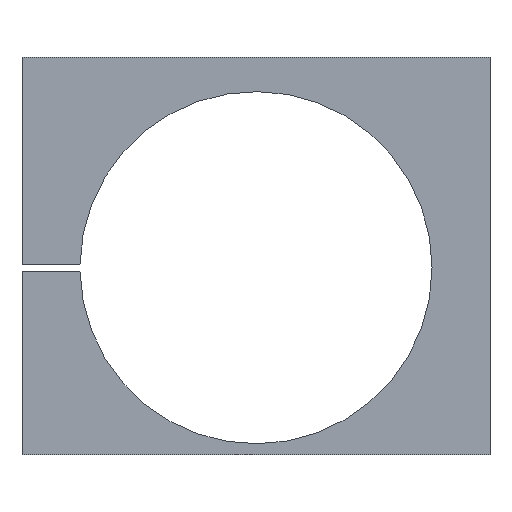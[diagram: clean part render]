
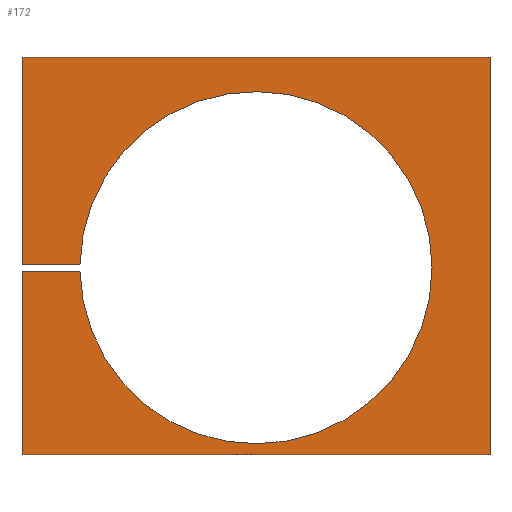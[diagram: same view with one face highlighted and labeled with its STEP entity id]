
A CAD part, front view. The second image highlights one B-rep face of the part: STEP entity #172.
In plain terms, the highlighted planar face has unit normal (0, -1, 0).
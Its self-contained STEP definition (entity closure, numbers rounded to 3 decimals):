
#61=CARTESIAN_POINT('Vertex',(-75.235,0.,81.5)) ;
#66=CARTESIAN_POINT('Line Origine',(-87.618,0.,81.5)) ;
#70=CARTESIAN_POINT('Vertex',(-100.,0.,81.5)) ;
#110=CARTESIAN_POINT('Axis2P3D Location',(0.,0.,0.)) ;
#115=CARTESIAN_POINT('Line Origine',(100.,0.,85.)) ;
#119=CARTESIAN_POINT('Vertex',(100.,0.,170.)) ;
#121=CARTESIAN_POINT('Vertex',(100.,0.,0.)) ;
#124=CARTESIAN_POINT('Line Origine',(0.,0.,170.)) ;
#128=CARTESIAN_POINT('Vertex',(-100.,0.,170.)) ;
#131=CARTESIAN_POINT('Line Origine',(-100.,0.,125.75)) ;
#136=CARTESIAN_POINT('Axis2P3D Location',(0.,0.,80.)) ;
#140=CARTESIAN_POINT('Vertex',(-75.235,0.,78.5)) ;
#143=CARTESIAN_POINT('Line Origine',(-87.618,0.,78.5)) ;
#147=CARTESIAN_POINT('Vertex',(-100.,0.,78.5)) ;
#150=CARTESIAN_POINT('Line Origine',(-100.,0.,39.25)) ;
#154=CARTESIAN_POINT('Vertex',(-100.,0.,0.)) ;
#157=CARTESIAN_POINT('Line Origine',(0.,0.,0.)) ;
#67=DIRECTION('Vector Direction',(-1.,0.,0.)) ;
#111=DIRECTION('Axis2P3D Direction',(0.,1.,0.)) ;
#112=DIRECTION('Axis2P3D XDirection',(-1.,0.,0.)) ;
#116=DIRECTION('Vector Direction',(0.,0.,-1.)) ;
#125=DIRECTION('Vector Direction',(1.,0.,0.)) ;
#132=DIRECTION('Vector Direction',(0.,0.,1.)) ;
#137=DIRECTION('Axis2P3D Direction',(0.,1.,0.)) ;
#144=DIRECTION('Vector Direction',(-1.,0.,0.)) ;
#151=DIRECTION('Vector Direction',(0.,0.,1.)) ;
#158=DIRECTION('Vector Direction',(-1.,0.,0.)) ;
#113=AXIS2_PLACEMENT_3D('Plane Axis2P3D',#110,#111,#112) ;
#138=AXIS2_PLACEMENT_3D('Circle Axis2P3D',#136,#137,$) ;
#163=ORIENTED_EDGE('',*,*,#123,.F.) ;
#164=ORIENTED_EDGE('',*,*,#130,.F.) ;
#165=ORIENTED_EDGE('',*,*,#135,.F.) ;
#166=ORIENTED_EDGE('',*,*,#72,.F.) ;
#167=ORIENTED_EDGE('',*,*,#142,.F.) ;
#168=ORIENTED_EDGE('',*,*,#149,.F.) ;
#169=ORIENTED_EDGE('',*,*,#156,.F.) ;
#170=ORIENTED_EDGE('',*,*,#161,.F.) ;
#68=VECTOR('Line Direction',#67,1.) ;
#117=VECTOR('Line Direction',#116,1.) ;
#126=VECTOR('Line Direction',#125,1.) ;
#133=VECTOR('Line Direction',#132,1.) ;
#145=VECTOR('Line Direction',#144,1.) ;
#152=VECTOR('Line Direction',#151,1.) ;
#159=VECTOR('Line Direction',#158,1.) ;
#172=ADVANCED_FACE('',(#171),#114,.F.) ;
#139=CIRCLE('generated circle',#138,75.25) ;
#72=EDGE_CURVE('',#62,#71,#69,.T.) ;
#123=EDGE_CURVE('',#120,#122,#118,.T.) ;
#130=EDGE_CURVE('',#129,#120,#127,.T.) ;
#135=EDGE_CURVE('',#71,#129,#134,.T.) ;
#142=EDGE_CURVE('',#141,#62,#139,.F.) ;
#149=EDGE_CURVE('',#148,#141,#146,.F.) ;
#156=EDGE_CURVE('',#155,#148,#153,.T.) ;
#161=EDGE_CURVE('',#122,#155,#160,.T.) ;
#162=EDGE_LOOP('',(#163,#164,#165,#166,#167,#168,#169,#170)) ;
#171=FACE_OUTER_BOUND('',#162,.T.) ;
#69=LINE('Line',#66,#68) ;
#118=LINE('Line',#115,#117) ;
#127=LINE('Line',#124,#126) ;
#134=LINE('Line',#131,#133) ;
#146=LINE('Line',#143,#145) ;
#153=LINE('Line',#150,#152) ;
#160=LINE('Line',#157,#159) ;
#114=PLANE('Plane',#113) ;
#62=VERTEX_POINT('',#61) ;
#71=VERTEX_POINT('',#70) ;
#120=VERTEX_POINT('',#119) ;
#122=VERTEX_POINT('',#121) ;
#129=VERTEX_POINT('',#128) ;
#141=VERTEX_POINT('',#140) ;
#148=VERTEX_POINT('',#147) ;
#155=VERTEX_POINT('',#154) ;
